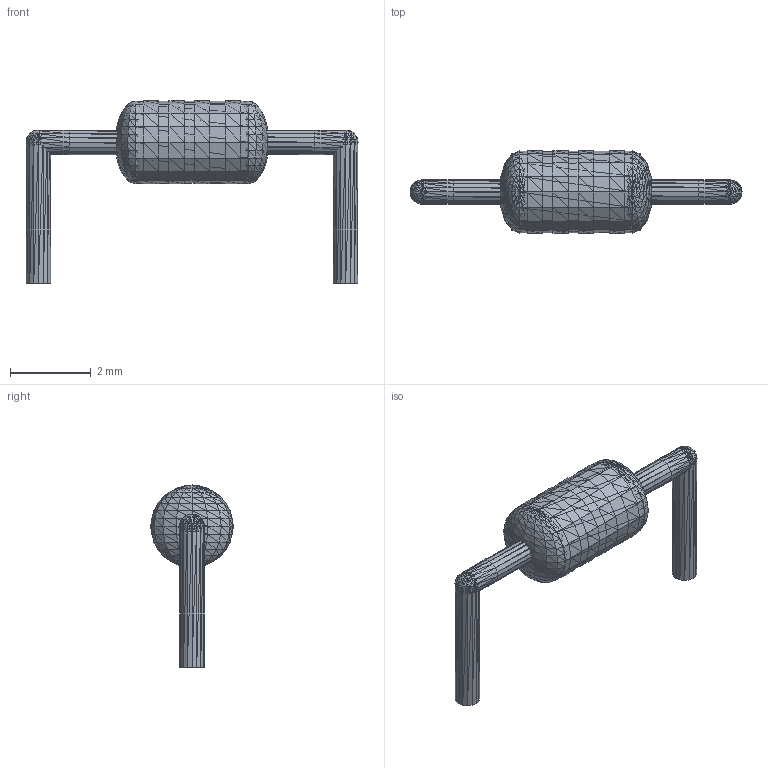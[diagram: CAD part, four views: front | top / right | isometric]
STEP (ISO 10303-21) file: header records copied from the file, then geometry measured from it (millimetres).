
FILE_DESCRIPTION(('HOOPS Exchange Step'),'2;1');
FILE_NAME('***.stp');
FILE_SCHEMA( ('AP242_MANAGED_MODEL_BASED_3D_ENGINEERING_MIM_LF {1 0 10303 442 1 1 4 }') );
Length unit declared in the file: inch
Products named in the file (79): R_125MW_15K_2; R_125MW_15K_3; R_125MW_15K_4; R_125MW_15K_5; R_125MW_15K_6; R_125MW_15K_7; R_125MW_15K_8; R_125MW_15K_9; R_125MW_15K_10; R_125MW_15K_11; R_125MW_15K_12; R_125MW_15K_13; R_125MW_15K_14; R_125MW_15K_15; R_125MW_15K_16; R_125MW_15K_17; R_125MW_15K_18; R_125MW_15K_19; R_125MW_15K_20; R_125MW_15K_21; R_125MW_15K_22; R_125MW_15K_23; R_125MW_15K_24; R_125MW_15K_25; R_125MW_15K_26; R_125MW_15K_27; R_125MW_15K_28; R_125MW_15K_29; R_125MW_15K_30; R_125MW_15K_31; R_125MW_15K_32; R_125MW_15K_33; R_125MW_15K_34; R_125MW_15K_35; R_125MW_15K_36; R_125MW_15K_37; R_125MW_15K_38; R_125MW_15K_39; R_125MW_15K_40; R_125MW_15K_41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
Assembly tree (78 placements, depth 2):
  R_125MW_15K
    R_125MW_15K_2
    R_125MW_15K_3
    R_125MW_15K_4
    R_125MW_15K_5
    R_125MW_15K_6
    R_125MW_15K_7
    R_125MW_15K_8
    R_125MW_15K_9
    R_125MW_15K_10
    R_125MW_15K_11
    R_125MW_15K_12
    R_125MW_15K_13
    R_125MW_15K_14
    R_125MW_15K_15
    R_125MW_15K_16
    R_125MW_15K_17
    R_125MW_15K_18
    R_125MW_15K_19
    R_125MW_15K_20
    R_125MW_15K_21
    R_125MW_15K_22
    R_125MW_15K_23
    R_125MW_15K_24
    R_125MW_15K_25
    R_125MW_15K_26
    R_125MW_15K_27
    R_125MW_15K_28
    R_125MW_15K_29
    R_125MW_15K_30
    R_125MW_15K_31
    R_125MW_15K_32
    R_125MW_15K_33
    R_125MW_15K_34
    R_125MW_15K_35
    R_125MW_15K_36
    R_125MW_15K_37
    R_125MW_15K_38
    R_125MW_15K_39
    R_125MW_15K_40
    R_125MW_15K_41
    R_125MW_15K_42
    R_125MW_15K_43
    R_125MW_15K_44
    R_125MW_15K_45
    R_125MW_15K_46
    R_125MW_15K_47
    R_125MW_15K_48
    R_125MW_15K_49
    R_125MW_15K_50
    R_125MW_15K_51
    R_125MW_15K_52
    R_125MW_15K_53
    R_125MW_15K_54
    R_125MW_15K_55
    R_125MW_15K_56
    R_125MW_15K_57
    R_125MW_15K_58
    R_125MW_15K_59
    R_125MW_15K_60
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Bounding box: 8.24 x 2.06 x 4.52 mm (x, y, z)
Volume: 20.3 mm3; surface area: 110.7 mm2
Topology: 11 solids, 78 shells, 2560 faces, 3968 edges, 1496 vertices
Faces by surface type: plane 2560
Entity records: 54338 total; most frequent: DIRECTION 9404, CARTESIAN_POINT 8182, ORIENTED_EDGE 7680, VECTOR 3968, LINE 3968, EDGE_CURVE 3968, AXIS2_PLACEMENT_3D 2718, PLANE 2560
